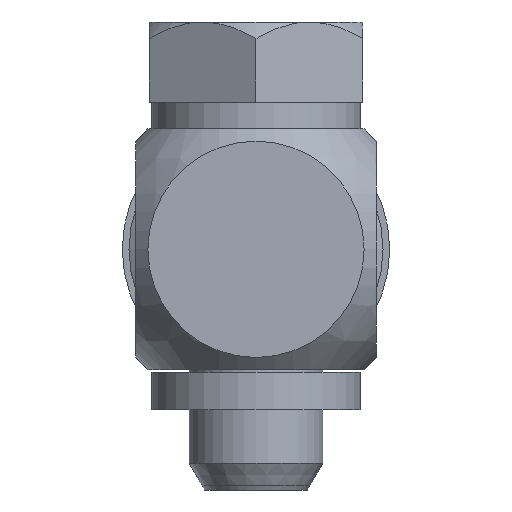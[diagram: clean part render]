
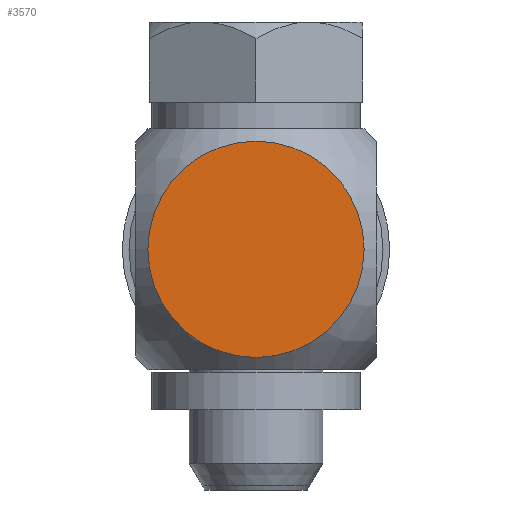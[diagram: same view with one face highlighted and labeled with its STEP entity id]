
A CAD part, left-side view. The second image highlights one B-rep face of the part: STEP entity #3570.
In plain terms, the highlighted planar face has unit normal (-1, 0, 0).
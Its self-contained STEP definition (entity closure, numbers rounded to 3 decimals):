
#3570=ADVANCED_FACE('', (#3580), #3590, .T.);
#11140=AXIS2_PLACEMENT_3D('Ax2Pl3d', #11150, #11160, #11170);
#11180=AXIS2_PLACEMENT_3D('Ax2Pl3d', #11190, #11200, #11210);
#11150=CARTESIAN_POINT('HicPkt', (12.239,12.525,
12.194));
#46810=CARTESIAN_POINT('', (12.239,8.481,12.194));
#11190=CARTESIAN_POINT('HicPkt', (12.239,12.525,
12.194));
#47680=CIRCLE('Circle', #11140, 4.044);
#11160=DIRECTION('Axis', (-1.,0.,0.)
);
#11170=DIRECTION('RefDirection', (0.,
0.,-1.));
#11200=DIRECTION('Axis', (-1.,0.,0.))
;
#11210=DIRECTION('RefDirection', (0.,
0.,-1.));
#54260=EDGE_CURVE('', #54270, #54270, #47680, .T.);
#58300=EDGE_LOOP('Edge_loop', (#58310));
#3580=FACE_OUTER_BOUND('Face_outer_bound', #58300, .T.);
#58310=ORIENTED_EDGE('', *, *, #54260, .T.);
#3590=PLANE('Plane', #11180);
#54270=VERTEX_POINT('', #46810);
